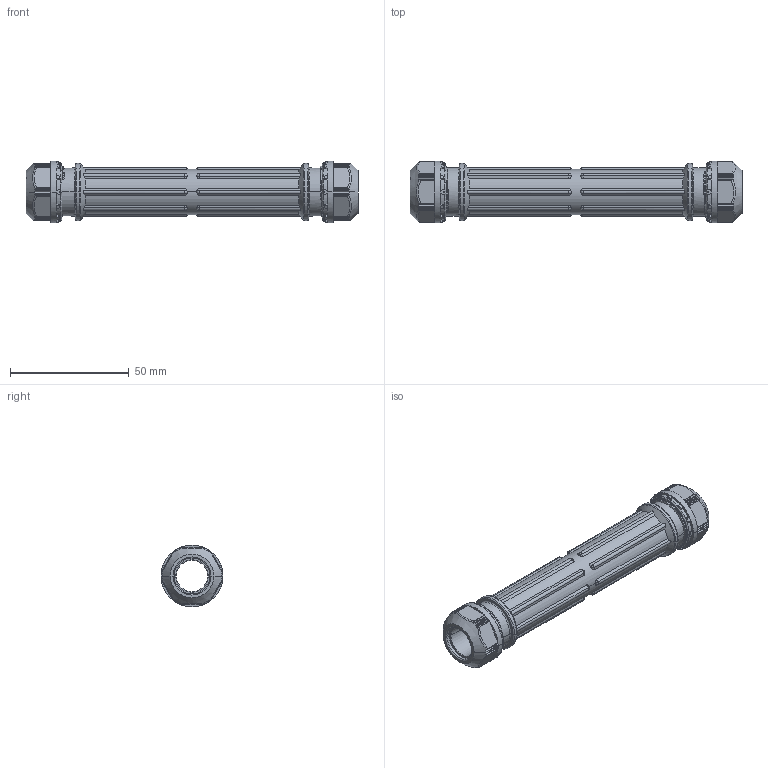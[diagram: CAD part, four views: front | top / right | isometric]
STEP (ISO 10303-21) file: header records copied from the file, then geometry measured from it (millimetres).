
FILE_DESCRIPTION(('Creo Elements/Direct Modeling STEP Export'),'2;1');
FILE_NAME('H03-0040-CL905_OA-QWL13SN.stp','2012-09-19T15:57:39',(''),(''),'Creo Elements/Direct Modeling STEP processor for AP214 (Solid Model)','Creo Elements/Direct Modeling 18.0B 02-Dec-2011 (C) Parametric Technology GmbH','');
FILE_SCHEMA(('AUTOMOTIVE_DESIGN { 1 0 10303 214 1 1 1 1 }'));
Length unit declared in the file: millimetre
Products named in the file (6): OA-QWL_本体; G13-13_L; L側; G13-13_R; R側; OA-QWL13SN
Assembly tree (5 placements, depth 3):
  OA-QWL13SN
    R側
      G13-13_R
    L側
      G13-13_L
    OA-QWL_本体
Bounding box: 139.63 x 26 x 26 mm (x, y, z)
Volume: 24856.3 mm3; surface area: 22305 mm2
Topology: 3 solids, 3 shells, 704 faces, 1841 edges, 1143 vertices
Faces by surface type: plane 296, cylinder 267, cone 56, torus 53, bspline 16, sphere 16
Entity records: 31345 total; most frequent: CARTESIAN_POINT 15264, ORIENTED_EDGE 3650, DIRECTION 2762, EDGE_CURVE 1825, VERTEX_POINT 1143, AXIS2_PLACEMENT_3D 1008, VECTOR 746, LINE 746
